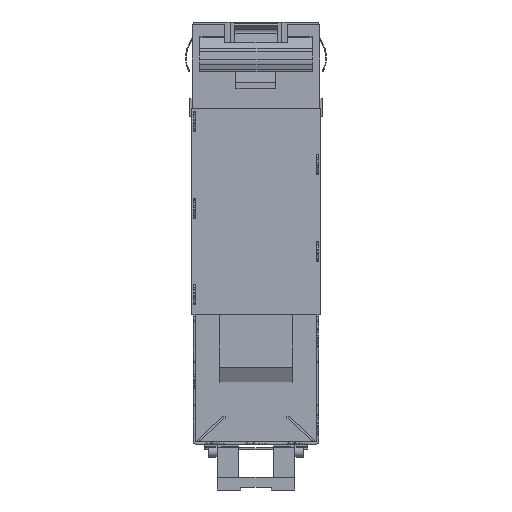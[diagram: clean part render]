
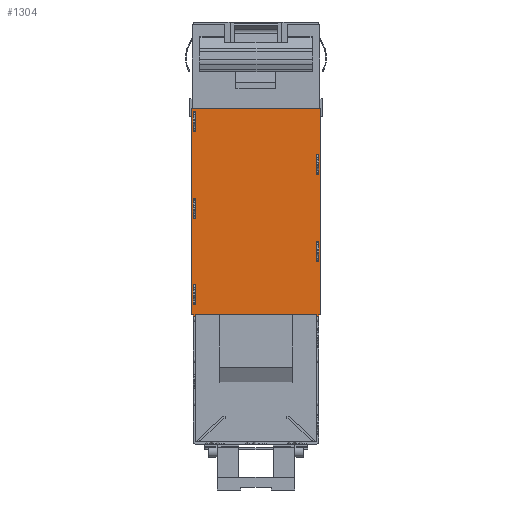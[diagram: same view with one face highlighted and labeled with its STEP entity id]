
A CAD part, front view. The second image highlights one B-rep face of the part: STEP entity #1304.
In plain terms, the highlighted planar face has unit normal (0, -1, 0).
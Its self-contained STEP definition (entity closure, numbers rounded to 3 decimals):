
#118=FACE_BOUND('',#3725,.T.);
#119=FACE_BOUND('',#3726,.T.);
#120=FACE_BOUND('',#3727,.T.);
#121=FACE_BOUND('',#3728,.T.);
#122=FACE_BOUND('',#3729,.T.);
#123=FACE_BOUND('',#3730,.T.);
#1304=ADVANCED_FACE('',(#118,#119,#120,#121,#122,#123),#2113,.T.);
#2113=PLANE('',#19110);
#3725=EDGE_LOOP('',(#7664,#7665,#7666,#7667,#7668,#7669,#7670,#7671,#7672,
#7673,#7674,#7675,#7676,#7677));
#3726=EDGE_LOOP('',(#7678,#7679,#7680,#7681));
#3727=EDGE_LOOP('',(#7682,#7683,#7684,#7685));
#3728=EDGE_LOOP('',(#7686,#7687,#7688,#7689));
#3729=EDGE_LOOP('',(#7690,#7691,#7692,#7693));
#3730=EDGE_LOOP('',(#7694,#7695,#7696,#7697));
#7664=ORIENTED_EDGE('',*,*,#13246,.T.);
#7665=ORIENTED_EDGE('',*,*,#12911,.F.);
#7666=ORIENTED_EDGE('',*,*,#13247,.F.);
#7667=ORIENTED_EDGE('',*,*,#13248,.F.);
#7668=ORIENTED_EDGE('',*,*,#13249,.F.);
#7669=ORIENTED_EDGE('',*,*,#13250,.F.);
#7670=ORIENTED_EDGE('',*,*,#13251,.T.);
#7671=ORIENTED_EDGE('',*,*,#13003,.T.);
#7672=ORIENTED_EDGE('',*,*,#13252,.F.);
#7673=ORIENTED_EDGE('',*,*,#13253,.F.);
#7674=ORIENTED_EDGE('',*,*,#13254,.T.);
#7675=ORIENTED_EDGE('',*,*,#13063,.T.);
#7676=ORIENTED_EDGE('',*,*,#13255,.F.);
#7677=ORIENTED_EDGE('',*,*,#13256,.T.);
#7678=ORIENTED_EDGE('',*,*,#13257,.T.);
#7679=ORIENTED_EDGE('',*,*,#12935,.F.);
#7680=ORIENTED_EDGE('',*,*,#13258,.T.);
#7681=ORIENTED_EDGE('',*,*,#13259,.F.);
#7682=ORIENTED_EDGE('',*,*,#13260,.T.);
#7683=ORIENTED_EDGE('',*,*,#13261,.F.);
#7684=ORIENTED_EDGE('',*,*,#13262,.T.);
#7685=ORIENTED_EDGE('',*,*,#13263,.F.);
#7686=ORIENTED_EDGE('',*,*,#13264,.T.);
#7687=ORIENTED_EDGE('',*,*,#12913,.F.);
#7688=ORIENTED_EDGE('',*,*,#13265,.T.);
#7689=ORIENTED_EDGE('',*,*,#13266,.F.);
#7690=ORIENTED_EDGE('',*,*,#12980,.T.);
#7691=ORIENTED_EDGE('',*,*,#13267,.T.);
#7692=ORIENTED_EDGE('',*,*,#13268,.F.);
#7693=ORIENTED_EDGE('',*,*,#13269,.T.);
#7694=ORIENTED_EDGE('',*,*,#12958,.T.);
#7695=ORIENTED_EDGE('',*,*,#13270,.T.);
#7696=ORIENTED_EDGE('',*,*,#13271,.F.);
#7697=ORIENTED_EDGE('',*,*,#13272,.T.);
#10682=VERTEX_POINT('',#27609);
#10695=VERTEX_POINT('',#27636);
#10739=VERTEX_POINT('',#27730);
#10740=VERTEX_POINT('',#27732);
#10741=VERTEX_POINT('',#27736);
#10742=VERTEX_POINT('',#27737);
#10762=VERTEX_POINT('',#27780);
#10763=VERTEX_POINT('',#27781);
#10784=VERTEX_POINT('',#27825);
#10785=VERTEX_POINT('',#27827);
#10805=VERTEX_POINT('',#27869);
#10806=VERTEX_POINT('',#27871);
#10827=VERTEX_POINT('',#27915);
#10828=VERTEX_POINT('',#27917);
#11035=VERTEX_POINT('',#28391);
#11036=VERTEX_POINT('',#28393);
#11037=VERTEX_POINT('',#28395);
#11038=VERTEX_POINT('',#28397);
#11039=VERTEX_POINT('',#28399);
#11040=VERTEX_POINT('',#28402);
#11041=VERTEX_POINT('',#28404);
#11042=VERTEX_POINT('',#28407);
#11043=VERTEX_POINT('',#28410);
#11044=VERTEX_POINT('',#28412);
#11045=VERTEX_POINT('',#28415);
#11046=VERTEX_POINT('',#28416);
#11047=VERTEX_POINT('',#28418);
#11048=VERTEX_POINT('',#28420);
#11049=VERTEX_POINT('',#28423);
#11050=VERTEX_POINT('',#28425);
#11051=VERTEX_POINT('',#28428);
#11052=VERTEX_POINT('',#28430);
#11053=VERTEX_POINT('',#28433);
#11054=VERTEX_POINT('',#28435);
#12911=EDGE_CURVE('',#10739,#10740,#15319,.T.);
#12913=EDGE_CURVE('',#10741,#10742,#15321,.T.);
#12935=EDGE_CURVE('',#10762,#10763,#15329,.T.);
#12958=EDGE_CURVE('',#10785,#10784,#15337,.T.);
#12980=EDGE_CURVE('',#10806,#10805,#15345,.T.);
#13003=EDGE_CURVE('',#10828,#10827,#15355,.T.);
#13063=EDGE_CURVE('',#10682,#10695,#15384,.T.);
#13246=EDGE_CURVE('',#11035,#10740,#15527,.T.);
#13247=EDGE_CURVE('',#11036,#10739,#15528,.T.);
#13248=EDGE_CURVE('',#11037,#11036,#15529,.T.);
#13249=EDGE_CURVE('',#11038,#11037,#15530,.T.);
#13250=EDGE_CURVE('',#11039,#11038,#15531,.T.);
#13251=EDGE_CURVE('',#11039,#10828,#15532,.T.);
#13252=EDGE_CURVE('',#11040,#10827,#15533,.T.);
#13253=EDGE_CURVE('',#11041,#11040,#15534,.T.);
#13254=EDGE_CURVE('',#11041,#10682,#15535,.T.);
#13255=EDGE_CURVE('',#11042,#10695,#15536,.T.);
#13256=EDGE_CURVE('',#11042,#11035,#15537,.T.);
#13257=EDGE_CURVE('',#11043,#10763,#15538,.T.);
#13258=EDGE_CURVE('',#10762,#11044,#15539,.T.);
#13259=EDGE_CURVE('',#11043,#11044,#15540,.T.);
#13260=EDGE_CURVE('',#11045,#11046,#15541,.T.);
#13261=EDGE_CURVE('',#11047,#11046,#15542,.T.);
#13262=EDGE_CURVE('',#11047,#11048,#15543,.T.);
#13263=EDGE_CURVE('',#11045,#11048,#15544,.T.);
#13264=EDGE_CURVE('',#11049,#10742,#15545,.T.);
#13265=EDGE_CURVE('',#10741,#11050,#15546,.T.);
#13266=EDGE_CURVE('',#11049,#11050,#15547,.T.);
#13267=EDGE_CURVE('',#10805,#11051,#15548,.T.);
#13268=EDGE_CURVE('',#11052,#11051,#15549,.T.);
#13269=EDGE_CURVE('',#11052,#10806,#15550,.T.);
#13270=EDGE_CURVE('',#10784,#11053,#15551,.T.);
#13271=EDGE_CURVE('',#11054,#11053,#15552,.T.);
#13272=EDGE_CURVE('',#11054,#10785,#15553,.T.);
#15319=LINE('',#27731,#17385);
#15321=LINE('',#27735,#17387);
#15329=LINE('',#27779,#17395);
#15337=LINE('',#27826,#17403);
#15345=LINE('',#27870,#17411);
#15355=LINE('',#27916,#17421);
#15384=LINE('',#28034,#17450);
#15527=LINE('',#28390,#17593);
#15528=LINE('',#28392,#17594);
#15529=LINE('',#28394,#17595);
#15530=LINE('',#28396,#17596);
#15531=LINE('',#28398,#17597);
#15532=LINE('',#28400,#17598);
#15533=LINE('',#28401,#17599);
#15534=LINE('',#28403,#17600);
#15535=LINE('',#28405,#17601);
#15536=LINE('',#28406,#17602);
#15537=LINE('',#28408,#17603);
#15538=LINE('',#28409,#17604);
#15539=LINE('',#28411,#17605);
#15540=LINE('',#28413,#17606);
#15541=LINE('',#28414,#17607);
#15542=LINE('',#28417,#17608);
#15543=LINE('',#28419,#17609);
#15544=LINE('',#28421,#17610);
#15545=LINE('',#28422,#17611);
#15546=LINE('',#28424,#17612);
#15547=LINE('',#28426,#17613);
#15548=LINE('',#28427,#17614);
#15549=LINE('',#28429,#17615);
#15550=LINE('',#28431,#17616);
#15551=LINE('',#28432,#17617);
#15552=LINE('',#28434,#17618);
#15553=LINE('',#28436,#17619);
#17385=VECTOR('',#22165,1.);
#17387=VECTOR('',#22169,1.);
#17395=VECTOR('',#22207,1.);
#17403=VECTOR('',#22247,1.);
#17411=VECTOR('',#22285,1.);
#17421=VECTOR('',#22323,1.);
#17450=VECTOR('',#22416,1.);
#17593=VECTOR('',#22685,1.);
#17594=VECTOR('',#22686,1.);
#17595=VECTOR('',#22687,1.);
#17596=VECTOR('',#22688,1.);
#17597=VECTOR('',#22689,1.);
#17598=VECTOR('',#22690,1.);
#17599=VECTOR('',#22691,1.);
#17600=VECTOR('',#22692,1.);
#17601=VECTOR('',#22693,1.);
#17602=VECTOR('',#22694,1.);
#17603=VECTOR('',#22695,1.);
#17604=VECTOR('',#22696,1.);
#17605=VECTOR('',#22697,1.);
#17606=VECTOR('',#22698,1.);
#17607=VECTOR('',#22699,1.);
#17608=VECTOR('',#22700,1.);
#17609=VECTOR('',#22701,1.);
#17610=VECTOR('',#22702,1.);
#17611=VECTOR('',#22703,1.);
#17612=VECTOR('',#22704,1.);
#17613=VECTOR('',#22705,1.);
#17614=VECTOR('',#22706,1.);
#17615=VECTOR('',#22707,1.);
#17616=VECTOR('',#22708,1.);
#17617=VECTOR('',#22709,1.);
#17618=VECTOR('',#22710,1.);
#17619=VECTOR('',#22711,1.);
#19110=AXIS2_PLACEMENT_3D('',#28437,#22712,#22713);
#22165=DIRECTION('',(0.,0.,1.));
#22169=DIRECTION('',(0.,0.,-1.));
#22207=DIRECTION('',(0.,0.,-1.));
#22247=DIRECTION('',(0.,0.,-1.));
#22285=DIRECTION('',(0.,0.,-1.));
#22323=DIRECTION('',(0.,0.,1.));
#22416=DIRECTION('',(-1.,0.,0.));
#22685=DIRECTION('',(1.,0.,0.));
#22686=DIRECTION('',(-1.,0.,0.));
#22687=DIRECTION('',(0.,0.,-1.));
#22688=DIRECTION('',(-1.,0.,0.));
#22689=DIRECTION('',(0.,0.,1.));
#22690=DIRECTION('',(1.,0.,0.));
#22691=DIRECTION('',(-1.,0.,0.));
#22692=DIRECTION('',(0.,0.,-1.));
#22693=DIRECTION('',(-1.,0.,0.));
#22694=DIRECTION('',(1.,0.,0.));
#22695=DIRECTION('',(0.,0.,-1.));
#22696=DIRECTION('',(-1.,0.,0.));
#22697=DIRECTION('',(1.,0.,0.));
#22698=DIRECTION('',(0.,0.,1.));
#22699=DIRECTION('',(-1.,0.,0.));
#22700=DIRECTION('',(0.,0.,-1.));
#22701=DIRECTION('',(1.,0.,0.));
#22702=DIRECTION('',(0.,0.,1.));
#22703=DIRECTION('',(-1.,0.,0.));
#22704=DIRECTION('',(1.,0.,0.));
#22705=DIRECTION('',(0.,0.,1.));
#22706=DIRECTION('',(-1.,0.,0.));
#22707=DIRECTION('',(0.,0.,-1.));
#22708=DIRECTION('',(1.,0.,0.));
#22709=DIRECTION('',(-1.,0.,0.));
#22710=DIRECTION('',(0.,0.,-1.));
#22711=DIRECTION('',(1.,0.,0.));
#22712=DIRECTION('',(0.,-1.,0.));
#22713=DIRECTION('',(0.,0.,1.));
#27609=CARTESIAN_POINT('',(7.37,0.,-10.));
#27636=CARTESIAN_POINT('',(-7.37,0.,-10.));
#27730=CARTESIAN_POINT('',(-7.25,0.,-34.));
#27731=CARTESIAN_POINT('',(-7.25,0.,-48.75));
#27732=CARTESIAN_POINT('',(-7.25,0.,-33.8));
#27735=CARTESIAN_POINT('',(-7.25,0.,-10.));
#27736=CARTESIAN_POINT('',(-7.25,0.,-30.35));
#27737=CARTESIAN_POINT('',(-7.25,0.,-32.65));
#27779=CARTESIAN_POINT('',(-7.25,0.,-10.));
#27780=CARTESIAN_POINT('',(-7.25,0.,-20.35));
#27781=CARTESIAN_POINT('',(-7.25,0.,-22.65));
#27825=CARTESIAN_POINT('',(7.25,0.,-27.65));
#27826=CARTESIAN_POINT('',(7.25,0.,-10.));
#27827=CARTESIAN_POINT('',(7.25,0.,-25.35));
#27869=CARTESIAN_POINT('',(7.25,0.,-17.65));
#27870=CARTESIAN_POINT('',(7.25,0.,-10.));
#27871=CARTESIAN_POINT('',(7.25,0.,-15.35));
#27915=CARTESIAN_POINT('',(7.25,0.,-33.8));
#27916=CARTESIAN_POINT('',(7.25,0.,-48.75));
#27917=CARTESIAN_POINT('',(7.25,0.,-34.));
#28034=CARTESIAN_POINT('',(-7.25,0.,-10.));
#28390=CARTESIAN_POINT('',(-7.5,0.,-33.8));
#28391=CARTESIAN_POINT('',(-7.5,0.,-33.8));
#28392=CARTESIAN_POINT('',(-7.,0.,-34.));
#28393=CARTESIAN_POINT('',(-7.,0.,-34.));
#28394=CARTESIAN_POINT('',(-7.,0.,-33.8));
#28395=CARTESIAN_POINT('',(-7.,0.,-33.8));
#28396=CARTESIAN_POINT('',(-7.,0.,-33.8));
#28397=CARTESIAN_POINT('',(7.,0.,-33.8));
#28398=CARTESIAN_POINT('',(7.,0.,-33.8));
#28399=CARTESIAN_POINT('',(7.,0.,-34.));
#28400=CARTESIAN_POINT('',(7.,0.,-34.));
#28401=CARTESIAN_POINT('',(7.5,0.,-33.8));
#28402=CARTESIAN_POINT('',(7.5,0.,-33.8));
#28403=CARTESIAN_POINT('',(7.5,0.,-10.));
#28404=CARTESIAN_POINT('',(7.5,0.,-10.));
#28405=CARTESIAN_POINT('',(7.5,0.,-10.));
#28406=CARTESIAN_POINT('',(-7.5,0.,-10.));
#28407=CARTESIAN_POINT('',(-7.5,0.,-10.));
#28408=CARTESIAN_POINT('',(-7.5,0.,-10.));
#28409=CARTESIAN_POINT('',(-7.25,0.,-22.65));
#28410=CARTESIAN_POINT('',(-7.,0.,-22.65));
#28411=CARTESIAN_POINT('',(-7.,0.,-20.35));
#28412=CARTESIAN_POINT('',(-7.,0.,-20.35));
#28413=CARTESIAN_POINT('',(-7.,0.,-48.75));
#28414=CARTESIAN_POINT('',(-7.25,0.,-12.65));
#28415=CARTESIAN_POINT('',(-7.,0.,-12.65));
#28416=CARTESIAN_POINT('',(-7.25,0.,-12.65));
#28417=CARTESIAN_POINT('',(-7.25,0.,-10.));
#28418=CARTESIAN_POINT('',(-7.25,0.,-10.35));
#28419=CARTESIAN_POINT('',(-7.,0.,-10.35));
#28420=CARTESIAN_POINT('',(-7.,0.,-10.35));
#28421=CARTESIAN_POINT('',(-7.,0.,-48.75));
#28422=CARTESIAN_POINT('',(-7.25,0.,-32.65));
#28423=CARTESIAN_POINT('',(-7.,0.,-32.65));
#28424=CARTESIAN_POINT('',(-7.,0.,-30.35));
#28425=CARTESIAN_POINT('',(-7.,0.,-30.35));
#28426=CARTESIAN_POINT('',(-7.,0.,-48.75));
#28427=CARTESIAN_POINT('',(7.,0.,-17.65));
#28428=CARTESIAN_POINT('',(7.,0.,-17.65));
#28429=CARTESIAN_POINT('',(7.,0.,-48.75));
#28430=CARTESIAN_POINT('',(7.,0.,-15.35));
#28431=CARTESIAN_POINT('',(7.25,0.,-15.35));
#28432=CARTESIAN_POINT('',(7.,0.,-27.65));
#28433=CARTESIAN_POINT('',(7.,0.,-27.65));
#28434=CARTESIAN_POINT('',(7.,0.,-48.75));
#28435=CARTESIAN_POINT('',(7.,0.,-25.35));
#28436=CARTESIAN_POINT('',(7.25,0.,-25.35));
#28437=CARTESIAN_POINT('',(-7.25,0.,-48.75));
